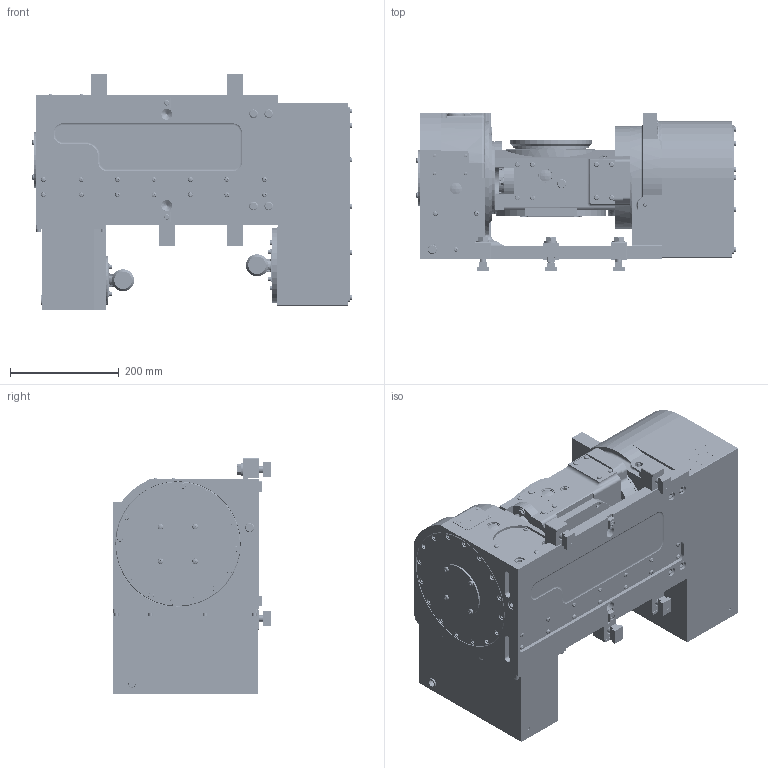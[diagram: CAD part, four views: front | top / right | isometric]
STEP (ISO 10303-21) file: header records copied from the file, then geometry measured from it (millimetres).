
FILE_DESCRIPTION (( 'STEP AP214' ), '1' );
FILE_NAME ('【掲載用】TT150Quinte.STEP', '2019-10-15T04:36:07', ( '' ), ( '' ), 'SwSTEP 2.0', 'SolidWorks 2017', '' );
FILE_SCHEMA (( 'AUTOMOTIVE_DESIGN' ));
Length unit declared in the file: millimetre
Products named in the file (17): TABLE(61E819648)TT150A01; BODY(61E114919)TT150A01; BASE_TT150AV; 働乕僽儖N29ZSZ2562; キタガワシール; SMC KQ2E06-02; コネクタプレート(61E4479762)TRX320B20; モータケース(61E2696923)TT150AVR00; モータケース(61E2696781)TT150AVR00; BASE(61E114920)TT150A01_GB14; 【掲載用】TT150Quinte; CLAMPING PARTS(61E444176)TT181D3; Tスロットナット１４１２; Wヒラ　パーカ12; B 8.8 パーカ M12×55; クランプ(61E444174)TT150AE-04
Assembly tree (20 placements, depth 3):
  【掲載用】TT150Quinte
    BASE_TT150AV
      BASE(61E114920)TT150A01_GB14
      モータケース(61E2696781)TT150AVR00
      モータケース(61E2696923)TT150AVR00
      コネクタプレート(61E4479762)TRX320B20
      SMC KQ2E06-02
      キタガワシール
      働乕僽儖N29ZSZ2562  x2
    BODY(61E114919)TT150A01
      BODY(61E114919)TT150A01
    TABLE(61E819648)TT150A01
    CLAMPING PARTS(61E444176)TT181D3  x4
      クランプ(61E444174)TT150AE-04
      B 8.8 パーカ M12×55
      Wヒラ　パーカ12
      Tスロットナット１４１２
Bounding box: 588.88 x 292 x 434 mm (x, y, z)
Volume: 35392462.7 mm3; surface area: 1776111.1 mm2
Topology: 30 solids, 151 shells, 5855 faces, 13847 edges, 8754 vertices
Faces by surface type: plane 3460, cylinder 1573, cone 548, torus 164, sphere 74, bspline 36
Entity records: 166065 total; most frequent: CARTESIAN_POINT 31971, DIRECTION 27721, ORIENTED_EDGE 26154, EDGE_CURVE 13077, AXIS2_PLACEMENT_3D 9475, VECTOR 8771, LINE 8771, VERTEX_POINT 8338
